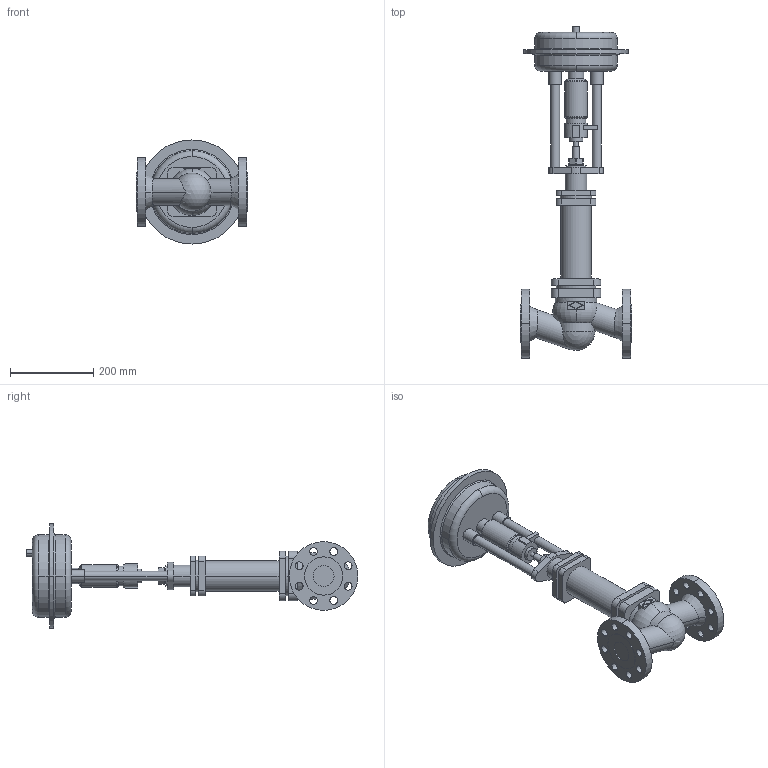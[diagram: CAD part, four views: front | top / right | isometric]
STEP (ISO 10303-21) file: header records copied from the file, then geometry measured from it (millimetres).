
FILE_DESCRIPTION( ( '' ), '1' );
FILE_NAME( 'F:/DE-SHS/TB/OR/04-Sonstiges/daten/files_3d/470-471_ANSI/c000005349.stp', '2014-06-02T05:56:44', ( '' ), ( '' ), ' ', ' ', ' ' );
FILE_SCHEMA( ( 'CONFIG_CONTROL_DESIGN' ) );
Length unit declared in the file: millimetre
Products named in the file (2): 1; 2
Bounding box: 267 x 797 x 250 mm (x, y, z)
Volume: 7549914.7 mm3; surface area: 536000.2 mm2
Topology: 2 solids, 2 shells, 240 faces, 618 edges, 412 vertices
Faces by surface type: cylinder 120, plane 93, torus 18, cone 8, sphere 1
Entity records: 8178 total; most frequent: CARTESIAN_POINT 1878, DIRECTION 1402, ORIENTED_EDGE 1232, EDGE_CURVE 616, AXIS2_PLACEMENT_3D 560, VERTEX_POINT 412, CIRCLE 318, EDGE_LOOP 304
